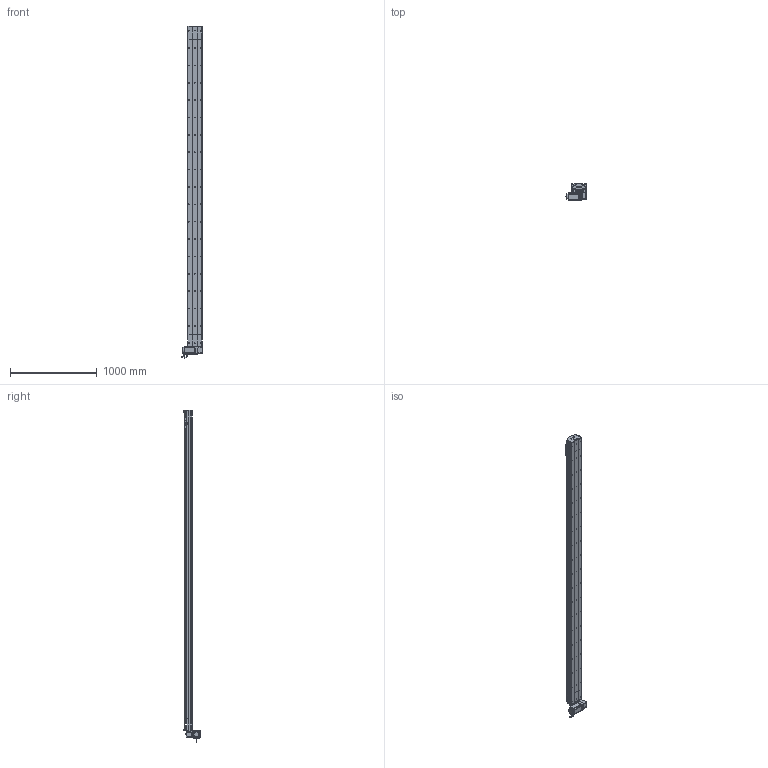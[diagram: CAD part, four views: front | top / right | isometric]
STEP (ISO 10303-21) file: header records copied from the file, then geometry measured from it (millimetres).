
FILE_DESCRIPTION (( 'STEP AP214' ), '1' );
FILE_NAME ('D17 TBH LU S3400.STEP', '2010-06-30T10:34:19', ( 'Christophe Gaillard' ), ( 'SGA' ), 'SwSTEP 2.0', 'SolidWorks 2010', '' );
FILE_SCHEMA (( 'AUTOMOTIVE_DESIGN' ));
Length unit declared in the file: millimetre
Products named in the file (40): Couroie+ rail D17 Course 3400 ; poulie tail_Default; course 3400 D17B_Default; corp D17B 3400_Default; Head LU D17B_Default; D17 TBH LU S3400; Couroie tail D17B_Default; vis M5 L8 90°_Default; couvercle D17B_Default; vis M5 L25_Default; Chariot D17; chariot D17S_Default; guide D17; vis M5 L12_Default; plaque de  bout tail D17B_Default; couvercle D17B course L3400_Default; Rail D17B; Arbre+rail head D17B; plaque de  bout head D17B LU_Default; couvercle D17B head_Default; poulie head_Default; vis M5 L5_Default; cache D17_Default; Moteur motionking 90BLDC125A-640; Renvoi LU_Default; couroie head D17_Default; cache arbre D17_Default; codeur 90BLDC125-640; corps 90BLDC125A-640; avant 90BLDC125A-640; vis M5 L70_Default; Conecteur_Default; Conecteur2_Default; Vis M5 L16-2_Default; vis M5 L16_Default; Plaque racord D17_Default; tete d''axe poulie D17B; corpl tail D17B_Default; Tail D17B_Default; corpl head D17 _Default
Assembly tree (70 placements, depth 4):
  D17 TBH LU S3400
    Head LU D17B_Default
      vis M5 L12_Default  x8
      vis M5 L16_Default  x2
      vis M5 L5_Default  x4
      vis M5 L70_Default  x4
      Moteur motionking 90BLDC125A-640
        Conecteur2_Default
        codeur 90BLDC125-640
        corps 90BLDC125A-640
        Conecteur_Default
        avant 90BLDC125A-640
      vis M5 L25_Default  x2
      Plaque racord D17_Default
      cache D17_Default  x2
      plaque de  bout head D17B LU_Default
      Arbre+rail head D17B
      Vis M5 L16-2_Default  x4
      poulie head_Default
      corpl head D17 _Default
      couvercle D17B head_Default
      couroie head D17_Default
      cache arbre D17_Default
      Renvoi LU_Default
    course 3400 D17B_Default
      couvercle D17B course L3400_Default
      Couroie+ rail D17 Course 3400 
      corp D17B 3400_Default
    Tail D17B_Default
      vis M5 L12_Default  x4
      corpl tail D17B_Default
      tete d''axe poulie D17B
      vis M5 L8 90°_Default  x2
      plaque de  bout tail D17B_Default
      poulie tail_Default
      vis M5 L25_Default  x2
      Rail D17B
      couvercle D17B_Default
      Couroie tail D17B_Default
    chariot D17S_Default
      Chariot D17
      vis M5 L12_Default  x4
      guide D17  x2
Bounding box: 245.2 x 188.65 x 3823.95 mm (x, y, z)
Volume: 21563843.5 mm3; surface area: 6309237.8 mm2
Topology: 94 solids, 94 shells, 2797 faces, 7173 edges, 4614 vertices
Faces by surface type: plane 1607, cylinder 877, bspline 136, cone 88, torus 85, sphere 4
Entity records: 88800 total; most frequent: CARTESIAN_POINT 25961, ORIENTED_EDGE 11118, DIRECTION 10524, EDGE_CURVE 5559, VERTEX_POINT 3638, VECTOR 3582, LINE 3582, AXIS2_PLACEMENT_3D 3471
